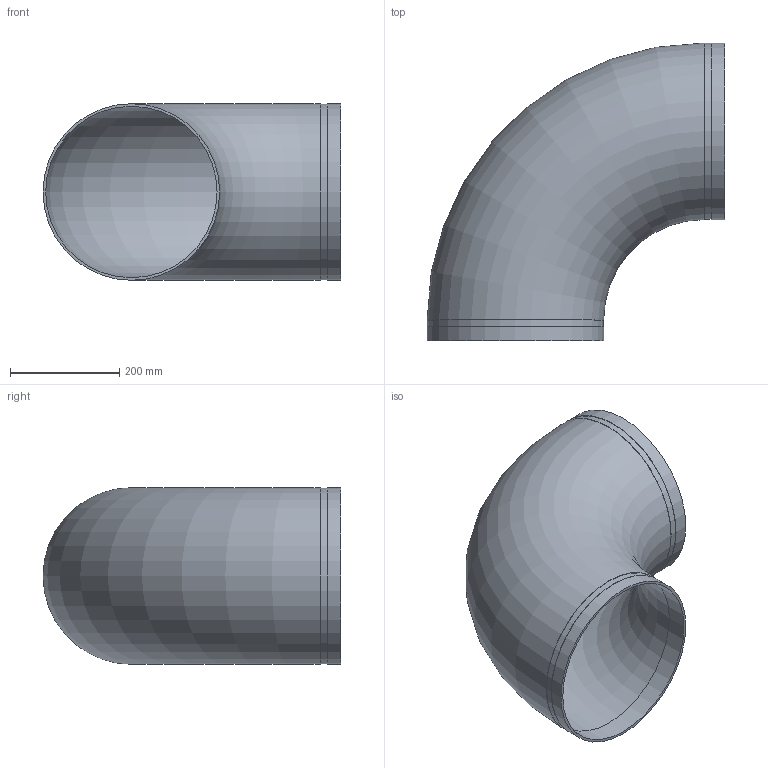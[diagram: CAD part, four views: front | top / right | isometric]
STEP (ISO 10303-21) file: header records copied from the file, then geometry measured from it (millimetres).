
FILE_DESCRIPTION(/* description */ ('VIC 90 DEG ELBOW STYLE 401DX','CAx-IF Rec.Pracs.---Representation and Presentation of Product Manufacturing Information (PMI)---4.0---2014-10-13'),/* implementation_level */ '2;1');
FILE_NAME(/* name */ 'C:\Users\kkamble\AppData\Roaming\Autodesk\ApplicationPlugins\Back Up\Victaulic_SS-StrengThin_Elbow 90 Deg_No 401DX (STG)\Victaulic_SS-StrengThin_Elbow 90 Deg_No 401DX (STG)_12 (300).stp',/* time_stamp */ '2020-08-17T13:28:27+06:00',/* author */ ('cps_temp'),/* organization */ ('Victaulic'),/* preprocessor_version */ 'ST-DEVELOPER v17.2',/* originating_system */ 'Autodesk Inventor 2019',/* authorisation */ '');
FILE_SCHEMA (('AP242_MANAGED_MODEL_BASED_3D_ENGINEERING_MIM_LF { 1 0 10303 442 1 1 4 }'));
Length unit declared in the file: inch
Products named in the file (1): 401DX-12.0
Bounding box: 546.23 x 546.23 x 323.85 mm (x, y, z)
Volume: 2951422.4 mm3; surface area: 1255056.7 mm2
Topology: 1 solids, 1 shells, 14 faces, 30 edges, 22 vertices
Faces by surface type: plane 6, cylinder 6, torus 2
Full cylindrical faces by diameter (mm): 314.3 x2, 322.58 x2, 323.85 x2
Entity records: 556 total; most frequent: DIRECTION 110, CARTESIAN_POINT 84, ORIENTED_EDGE 60, AXIS2_PLACEMENT_3D 52, EDGE_CURVE 30, CIRCLE 24, VERTEX_POINT 22, EDGE_LOOP 20
